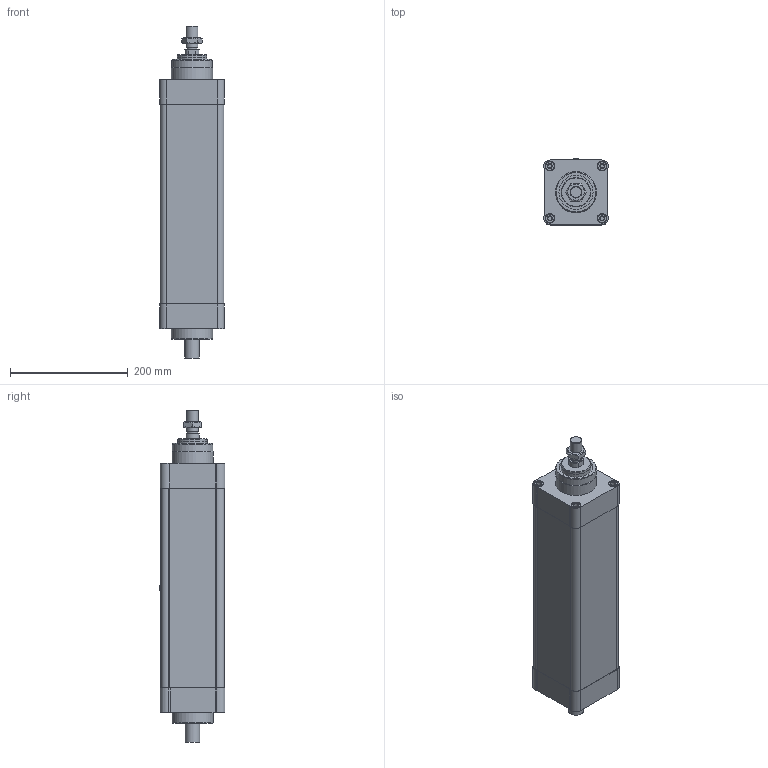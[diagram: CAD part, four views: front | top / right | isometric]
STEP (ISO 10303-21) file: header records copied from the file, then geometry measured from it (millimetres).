
FILE_DESCRIPTION(/* description */ ('STEP AP203'),/* implementation_level */ '2;1');
FILE_NAME(/* name */ 'PNCE 100 BS 4005 200 S(0)',/* time_stamp */ '2025-01-28T16:13:40+01:00',/* author */ ('License CC BY-ND 4.0'),/* organization */ ('CADENAS'),/* preprocessor_version */ 'ST-DEVELOPER v19.3',/* originating_system */ 'PARTsolutions',/* authorisation */ ' ');
FILE_SCHEMA (('CONFIG_CONTROL_DESIGN'));
Length unit declared in the file: millimetre
Products named in the file (6): PNCE 100 BS 4005 200 S(0); PNCE 100_drive cap; PNCE 100 4005 200 S(0)_cylinder profil; PNCE 100_front cap; PNCE 100 4005 200 S 0_piston rod; PNCE 100_nut
Assembly tree (5 placements, depth 2):
  PNCE 100 BS 4005 200 S(0)
    PNCE 100_drive cap
    PNCE 100 4005 200 S(0)_cylinder profil
    PNCE 100_front cap
    PNCE 100 4005 200 S 0_piston rod
    PNCE 100_nut
Bounding box: 110 x 112 x 565 mm (x, y, z)
Volume: 4261316.3 mm3; surface area: 523494 mm2
Topology: 5 solids, 5 shells, 258 faces, 556 edges, 366 vertices
Faces by surface type: plane 144, cylinder 84, cone 30
Full cylindrical faces by diameter (mm): 8 x4, 8.376 x8, 10 x8, 11 x4, 11.67 x1, 14.95 x1, 15 x8, 16.5 x8, 18.2 x1, 18.376 x1, 20 x1, 25 x1, 48 x1, 49.8 x1, 50 x2, 58 x1, 69 x1, 70 x2, 86 x4
Entity records: 8202 total; most frequent: CARTESIAN_POINT 1163, DIRECTION 1152, ORIENTED_EDGE 900, AXIS2_PLACEMENT_3D 460, EDGE_CURVE 450, FACE_BOUND 417, EDGE_LOOP 416, VERTEX_POINT 347
